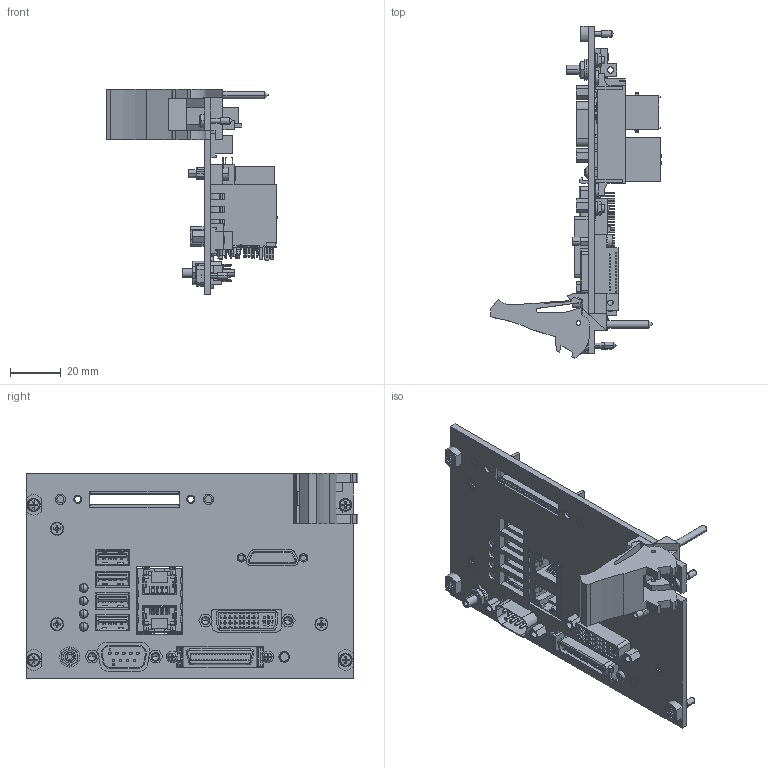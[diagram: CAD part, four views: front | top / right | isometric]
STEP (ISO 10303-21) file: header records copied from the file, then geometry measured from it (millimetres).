
FILE_DESCRIPTION((''),'2;1');
FILE_NAME('CU_ASSY_PXI-8109-SW','2014-09-30T',('gvillanu'),(''),'PRO/ENGINEER BY PARAMETRIC TECHNOLOGY CORPORATION, 2014000','PRO/ENGINEER BY PARAMETRIC TECHNOLOGY CORPORATION, 2014000','');
FILE_SCHEMA(('CONFIG_CONTROL_DESIGN'));
Length unit declared in the file: inch
Products named in the file (1): CU_ASSY_PXI-8109-SW
Bounding box: 67.18 x 130.52 x 80.98 mm (x, y, z)
Surface area: 53298.6 mm2 (no closed solid volume)
Topology: 0 solids, 79 shells, 3664 faces, 10602 edges, 7132 vertices
Faces by surface type: plane 2663, cylinder 846, cone 74, bspline 26, sphere 22, torus 19, extrusion 14
Entity records: 120836 total; most frequent: CARTESIAN_POINT 23989, DIRECTION 19747, ORIENTED_EDGE 19138, EDGE_CURVE 10560, VECTOR 7979, LINE 7965, VERTEX_POINT 7132, AXIS2_PLACEMENT_3D 5884
